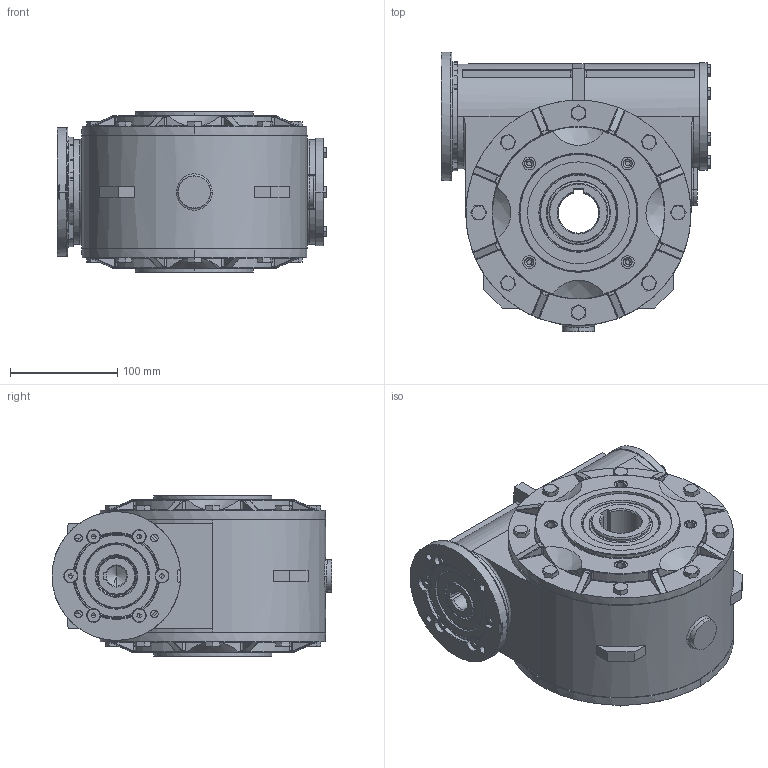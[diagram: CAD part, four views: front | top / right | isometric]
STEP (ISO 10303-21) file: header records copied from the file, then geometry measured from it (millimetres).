
FILE_DESCRIPTION (( 'STEP AP203' ), '1' );
FILE_NAME ('3F002310.STEP', '2012-07-24T05:45:12', ( 'Amministratore' ), ( 'SerteK sas' ), 'SwSTEP 2.0', 'SolidWorks 2009', '' );
FILE_SCHEMA (( 'CONFIG_CONTROL_DESIGN' ));
Products named in the file (1): 3F002310
Bounding box: 251.5 x 261 x 150.3 mm (x, y, z)
Surface area: 621410.3 mm2 (no closed solid volume)
Topology: 0 solids, 41 shells, 2375 faces, 5894 edges, 3666 vertices
Faces by surface type: cylinder 788, bspline 645, plane 606, cone 336
Entity records: 111345 total; most frequent: CARTESIAN_POINT 58945, ORIENTED_EDGE 11618, DIRECTION 10070, EDGE_CURVE 5829, AXIS2_PLACEMENT_3D 4075, VERTEX_POINT 3666, EDGE_LOOP 2585, FACE_OUTER_BOUND 2375
